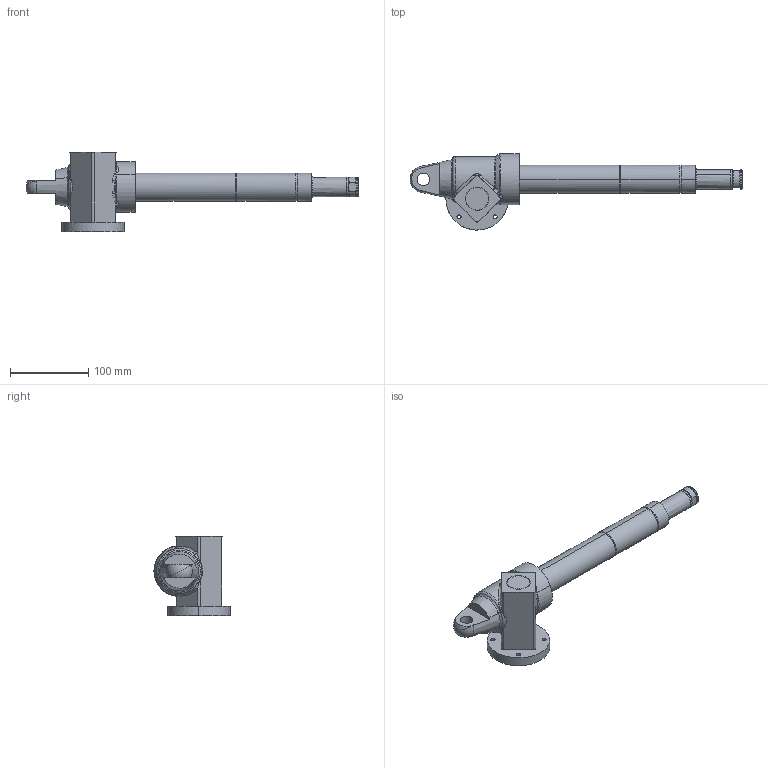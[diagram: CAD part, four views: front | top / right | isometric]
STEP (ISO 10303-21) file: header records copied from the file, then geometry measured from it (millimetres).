
FILE_DESCRIPTION(('CATIA V5 STEP Exchange'),'2;1');
FILE_NAME('C:\TRAVAIL\Verin-SNT\Doc\verin_SW\verin SNT ACL2120.stp','2008-11-20T16:57:47+00:00',('none'),('none'),'CATIA Version 5 Release 17 (IN-10)','CATIA V5 STEP AP203','none');
FILE_SCHEMA(('CONFIG_CONTROL_DESIGN'));
Length unit declared in the file: millimetre
Products named in the file (3): verin; 7204; roulement_-_7204_be
Assembly tree (30 placements, depth 4):
  verin
    #56
    #5955
    #12146
    #13232
    #16218
    #18300  x2
    #19381
    #19674
    #20893  x4
    #21564
    #22575
    #23470
    #24954
    #25373
    #26343
    #27407
    #27662
    #27902
    7204  x2
      roulement_-_7204_be
        #29026
        #29367
        #29960
      #30083
    #30434
Bounding box: 425.5 x 97.5 x 102.5 mm (x, y, z)
Volume: 486716.7 mm3; surface area: 248159.1 mm2
Topology: 47 solids, 47 shells, 827 faces, 2014 edges, 1247 vertices
Faces by surface type: cylinder 303, plane 176, bspline 145, cone 103, torus 54, sphere 44, extrusion 2
Entity records: 30426 total; most frequent: CARTESIAN_POINT 16274, ORIENTED_EDGE 3232, DIRECTION 1945, EDGE_CURVE 1616, VERTEX_POINT 1043, AXIS2_PLACEMENT_3D 989, EDGE_LOOP 801, ADVANCED_FACE 688
